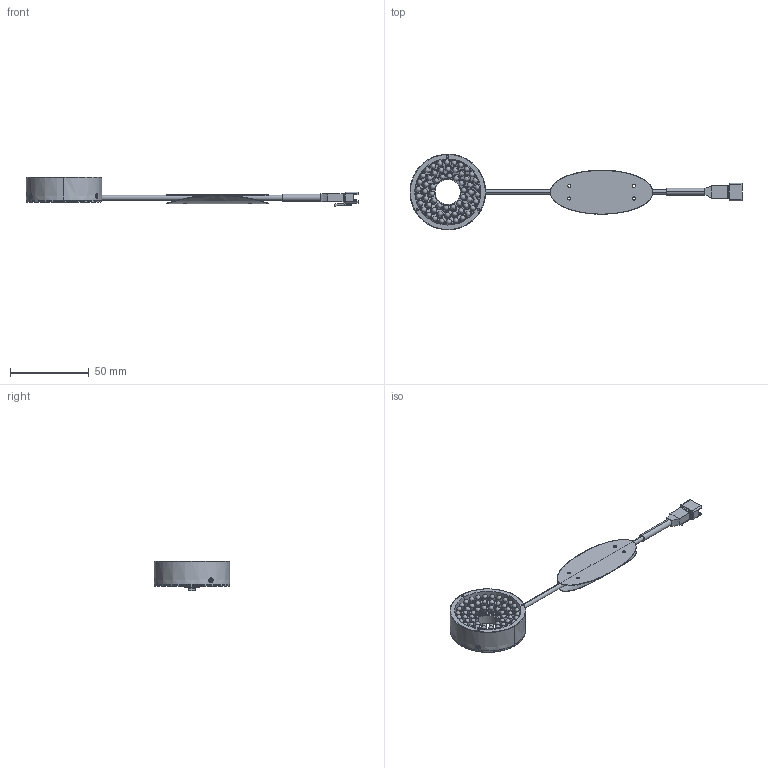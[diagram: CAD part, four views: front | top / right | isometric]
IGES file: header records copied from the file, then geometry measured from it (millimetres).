
Start section: 3D InterOp IGES (v. 2019 1.0.2), Spatial Corp. Copyright (c) 1999-2017.
Global section: file name: VDR-4816_DRAWING_3D.iges; native system: Spatial Corp.; preprocessor: 3D InterOp ACIS/IGES; author: Noname; organization: Noname; date: 20230928.201436; units: millimetre
Bounding box: 210.61 x 48 x 18.75 mm (x, y, z)
Surface area: 27458 mm2 (no closed solid volume)
Topology: 0 solids, 0 shells, 761 faces, 3864 edges, 3724 vertices
Faces by surface type: revolution 502, extrusion 247, bspline 12
